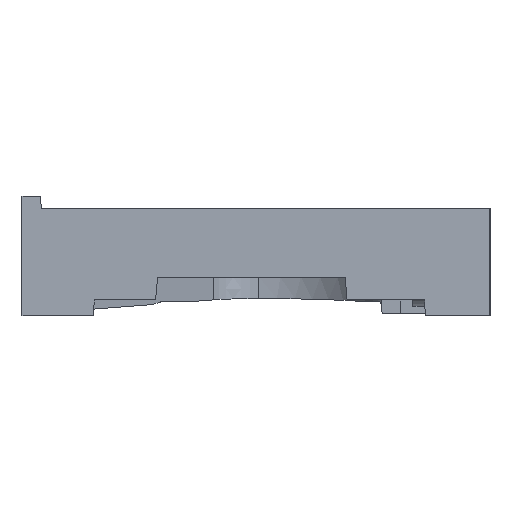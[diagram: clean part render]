
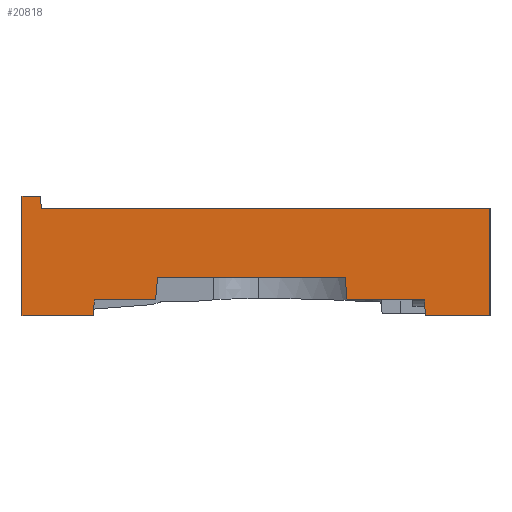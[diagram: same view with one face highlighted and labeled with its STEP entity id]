
A CAD part, left-side view. The second image highlights one B-rep face of the part: STEP entity #20818.
In plain terms, the highlighted planar face has unit normal (-1, 0, -0.009).
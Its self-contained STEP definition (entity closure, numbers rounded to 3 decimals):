
#96 = ORIENTED_EDGE ( 'NONE', *, *, #12976, .T. ) ;
#949 = VERTEX_POINT ( 'NONE', #21004 ) ;
#997 = CARTESIAN_POINT ( 'NONE',  ( 0.081, 0., -3.8 ) ) ;
#1067 = ORIENTED_EDGE ( 'NONE', *, *, #4976, .T. ) ;
#1107 = CARTESIAN_POINT ( 'NONE',  ( 0.061, -65.936, -1.5 ) ) ;
#1190 = CARTESIAN_POINT ( 'NONE',  ( 0.081, -65.735, -3.8 ) ) ;
#1792 = LINE ( 'NONE', #12187, #18095 ) ;
#1816 = CARTESIAN_POINT ( 'NONE',  ( 0.061, -84.924, -1.5 ) ) ;
#1936 = CARTESIAN_POINT ( 'NONE',  ( 0.081, -59.5, -3.8 ) ) ;
#2024 = VERTEX_POINT ( 'NONE', #1190 ) ;
#2333 = LINE ( 'NONE', #12739, #15055 ) ;
#2371 = DIRECTION ( 'NONE',  ( -1., 0., -0.009 ) ) ;
#2438 = EDGE_CURVE ( 'NONE', #6192, #30291, #23879, .T. ) ;
#2542 = EDGE_CURVE ( 'NONE', #14926, #17190, #25555, .T. ) ;
#3395 = VERTEX_POINT ( 'NONE', #15766 ) ;
#3729 = VECTOR ( 'NONE', #21450, 1000. ) ;
#3957 = ORIENTED_EDGE ( 'NONE', *, *, #32986, .F. ) ;
#4369 = AXIS2_PLACEMENT_3D ( 'NONE', #23384, #2371, #4926 ) ;
#4483 = CARTESIAN_POINT ( 'NONE',  ( 0.061, -76.2, -1.5 ) ) ;
#4926 = DIRECTION ( 'NONE',  ( -0.009, 0., 1. ) ) ;
#4976 = EDGE_CURVE ( 'NONE', #27905, #3395, #25817, .T. ) ;
#5263 = DIRECTION ( 'NONE',  ( 0.009, 0., -1. ) ) ;
#5266 = EDGE_CURVE ( 'NONE', #10076, #30424, #7806, .T. ) ;
#5307 = DIRECTION ( 'NONE',  ( 0.009, -0.017, -1. ) ) ;
#5383 = CARTESIAN_POINT ( 'NONE',  ( 0.095, -99.6, -5.4 ) ) ;
#5731 = CARTESIAN_POINT ( 'NONE',  ( 0.095, -170.224, -5.4 ) ) ;
#6192 = VERTEX_POINT ( 'NONE', #24611 ) ;
#6194 = DIRECTION ( 'NONE',  ( -0.009, -0.087, 0.996 ) ) ;
#6390 = CARTESIAN_POINT ( 'NONE',  ( 0.035, -54.201, 1.468 ) ) ;
#6579 = CARTESIAN_POINT ( 'NONE',  ( -0.006, -59.674, 6.197 ) ) ;
#6774 = VECTOR ( 'NONE', #6194, 1000. ) ;
#7806 = LINE ( 'NONE', #18582, #16611 ) ;
#8287 = LINE ( 'NONE', #5731, #32672 ) ;
#10076 = VERTEX_POINT ( 'NONE', #30650 ) ;
#10164 = DIRECTION ( 'NONE',  ( 0., 1., 0. ) ) ;
#10209 = FACE_OUTER_BOUND ( 'NONE', #28458, .T. ) ;
#10335 = CARTESIAN_POINT ( 'NONE',  ( 0.095, -52.2, -5.4 ) ) ;
#10801 = VECTOR ( 'NONE', #27754, 1000. ) ;
#10981 = LINE ( 'NONE', #32345, #6774 ) ;
#11057 = VECTOR ( 'NONE', #17344, 1000. ) ;
#11200 = EDGE_CURVE ( 'NONE', #27905, #6192, #14294, .T. ) ;
#11324 = DIRECTION ( 'NONE',  ( -0.009, 0., 1. ) ) ;
#11469 = VERTEX_POINT ( 'NONE', #10335 ) ;
#11532 = EDGE_CURVE ( 'NONE', #17477, #11560, #27074, .T. ) ;
#11560 = VERTEX_POINT ( 'NONE', #11684 ) ;
#11615 = EDGE_CURVE ( 'NONE', #11560, #949, #14924, .T. ) ;
#11647 = CARTESIAN_POINT ( 'NONE',  ( 0.048, -52.2, 0. ) ) ;
#11684 = CARTESIAN_POINT ( 'NONE',  ( -0.01, -54.109, 6.7 ) ) ;
#11819 = CARTESIAN_POINT ( 'NONE',  ( 0.081, -93., -3.8 ) ) ;
#12187 = CARTESIAN_POINT ( 'NONE',  ( 0., -99.6, 5.5 ) ) ;
#12189 = CARTESIAN_POINT ( 'NONE',  ( -0.01, -99.6, 6.7 ) ) ;
#12291 = VECTOR ( 'NONE', #5307, 1000. ) ;
#12520 = LINE ( 'NONE', #4483, #18222 ) ;
#12739 = CARTESIAN_POINT ( 'NONE',  ( 0.095, -170.224, -5.4 ) ) ;
#12976 = EDGE_CURVE ( 'NONE', #2024, #13757, #10981, .T. ) ;
#13189 = ORIENTED_EDGE ( 'NONE', *, *, #32504, .F. ) ;
#13611 = ORIENTED_EDGE ( 'NONE', *, *, #11615, .T. ) ;
#13757 = VERTEX_POINT ( 'NONE', #1107 ) ;
#13860 = EDGE_CURVE ( 'NONE', #13757, #30291, #12520, .T. ) ;
#13898 = LINE ( 'NONE', #11647, #14146 ) ;
#14146 = VECTOR ( 'NONE', #11324, 1000. ) ;
#14294 = LINE ( 'NONE', #997, #16258 ) ;
#14425 = ORIENTED_EDGE ( 'NONE', *, *, #13860, .T. ) ;
#14527 = CARTESIAN_POINT ( 'NONE',  ( 0.081, 0., -3.8 ) ) ;
#14924 = LINE ( 'NONE', #12189, #10801 ) ;
#14926 = VERTEX_POINT ( 'NONE', #1936 ) ;
#15055 = VECTOR ( 'NONE', #10164, 1000. ) ;
#15255 = EDGE_CURVE ( 'NONE', #2024, #14926, #25301, .T. ) ;
#15766 = CARTESIAN_POINT ( 'NONE',  ( 0.095, -93.028, -5.4 ) ) ;
#15854 = DIRECTION ( 'NONE',  ( -0.009, 0.087, 0.996 ) ) ;
#16258 = VECTOR ( 'NONE', #19250, 1000. ) ;
#16305 = ORIENTED_EDGE ( 'NONE', *, *, #15255, .F. ) ;
#16611 = VECTOR ( 'NONE', #5263, 1000. ) ;
#17151 = DIRECTION ( 'NONE',  ( 0., -1., 0. ) ) ;
#17190 = VERTEX_POINT ( 'NONE', #22961 ) ;
#17344 = DIRECTION ( 'NONE',  ( 0.009, 0.017, -1. ) ) ;
#17477 = VERTEX_POINT ( 'NONE', #27702 ) ;
#17860 = EDGE_CURVE ( 'NONE', #17190, #11469, #2333, .T. ) ;
#18095 = VECTOR ( 'NONE', #17151, 1000. ) ;
#18222 = VECTOR ( 'NONE', #33192, 1000. ) ;
#18231 = CARTESIAN_POINT ( 'NONE',  ( 0.012, -84.428, 4.173 ) ) ;
#18582 = CARTESIAN_POINT ( 'NONE',  ( 0., -99.6, 5.5 ) ) ;
#19250 = DIRECTION ( 'NONE',  ( 0., 1., 0. ) ) ;
#20689 = CARTESIAN_POINT ( 'NONE',  ( 0.081, -93., -3.799 ) ) ;
#20818 = ADVANCED_FACE ( 'NONE', ( #10209 ), #31236, .T. ) ;
#21004 = CARTESIAN_POINT ( 'NONE',  ( -0.01, -52.2, 6.7 ) ) ;
#21450 = DIRECTION ( 'NONE',  ( -0.009, 0.017, 1. ) ) ;
#22467 = EDGE_CURVE ( 'NONE', #17477, #10076, #1792, .T. ) ;
#22740 = DIRECTION ( 'NONE',  ( 0., 1., 0. ) ) ;
#22961 = CARTESIAN_POINT ( 'NONE',  ( 0.095, -59.472, -5.4 ) ) ;
#23293 = ORIENTED_EDGE ( 'NONE', *, *, #11200, .F. ) ;
#23357 = ORIENTED_EDGE ( 'NONE', *, *, #11532, .T. ) ;
#23384 = CARTESIAN_POINT ( 'NONE',  ( 0., -99.6, 5.5 ) ) ;
#23879 = LINE ( 'NONE', #18231, #32534 ) ;
#24611 = CARTESIAN_POINT ( 'NONE',  ( 0.081, -85.125, -3.8 ) ) ;
#25301 = LINE ( 'NONE', #14527, #28845 ) ;
#25555 = LINE ( 'NONE', #6579, #11057 ) ;
#25817 = LINE ( 'NONE', #20689, #12291 ) ;
#27074 = LINE ( 'NONE', #6390, #3729 ) ;
#27702 = CARTESIAN_POINT ( 'NONE',  ( 0., -54.13, 5.5 ) ) ;
#27754 = DIRECTION ( 'NONE',  ( 0., 1., 0. ) ) ;
#27905 = VERTEX_POINT ( 'NONE', #11819 ) ;
#28458 = EDGE_LOOP ( 'NONE', ( #23357, #13611, #3957, #30845, #29632, #16305, #96, #14425, #32305, #23293, #1067, #13189, #33771, #30768 ) ) ;
#28845 = VECTOR ( 'NONE', #22740, 1000. ) ;
#29632 = ORIENTED_EDGE ( 'NONE', *, *, #2542, .F. ) ;
#30291 = VERTEX_POINT ( 'NONE', #1816 ) ;
#30424 = VERTEX_POINT ( 'NONE', #5383 ) ;
#30650 = CARTESIAN_POINT ( 'NONE',  ( 0., -99.6, 5.5 ) ) ;
#30768 = ORIENTED_EDGE ( 'NONE', *, *, #22467, .F. ) ;
#30845 = ORIENTED_EDGE ( 'NONE', *, *, #17860, .F. ) ;
#31236 = PLANE ( 'NONE',  #4369 ) ;
#31369 = DIRECTION ( 'NONE',  ( 0., 1., 0. ) ) ;
#32305 = ORIENTED_EDGE ( 'NONE', *, *, #2438, .F. ) ;
#32345 = CARTESIAN_POINT ( 'NONE',  ( 0.066, -65.89, -2.02 ) ) ;
#32504 = EDGE_CURVE ( 'NONE', #30424, #3395, #8287, .T. ) ;
#32534 = VECTOR ( 'NONE', #15854, 1000. ) ;
#32672 = VECTOR ( 'NONE', #31369, 1000. ) ;
#32986 = EDGE_CURVE ( 'NONE', #11469, #949, #13898, .T. ) ;
#33192 = DIRECTION ( 'NONE',  ( 0., -1., 0. ) ) ;
#33771 = ORIENTED_EDGE ( 'NONE', *, *, #5266, .F. ) ;
